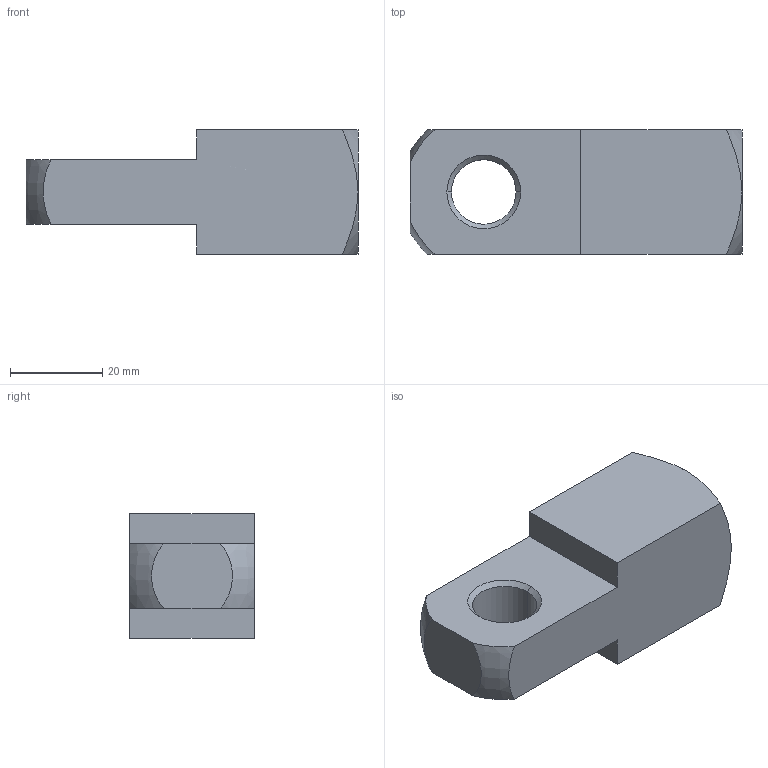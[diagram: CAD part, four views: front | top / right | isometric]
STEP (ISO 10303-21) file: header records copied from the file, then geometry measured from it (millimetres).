
FILE_DESCRIPTION (( 'STEP AP203' ), '1' );
FILE_NAME ('65653.W1014.step', '2014-01-22T12:17:36', ( 'User' ), ( '' ), 'SwSTEP 2.0', 'SolidWorks 2009', '' );
FILE_SCHEMA (( 'CONFIG_CONTROL_DESIGN' ));
Length unit declared in the file: millimetre
Products named in the file (1): 65653.W1014
Bounding box: 72 x 27 x 27 mm (x, y, z)
Volume: 32025.3 mm3; surface area: 9636 mm2
Topology: 1 solids, 1 shells, 31 faces, 74 edges, 45 vertices
Faces by surface type: cone 12, plane 11, cylinder 6, torus 2
Entity records: 1097 total; most frequent: CARTESIAN_POINT 307, DIRECTION 152, ORIENTED_EDGE 144, EDGE_CURVE 72, AXIS2_PLACEMENT_3D 60, VERTEX_POINT 45, EDGE_LOOP 35, VECTOR 32
